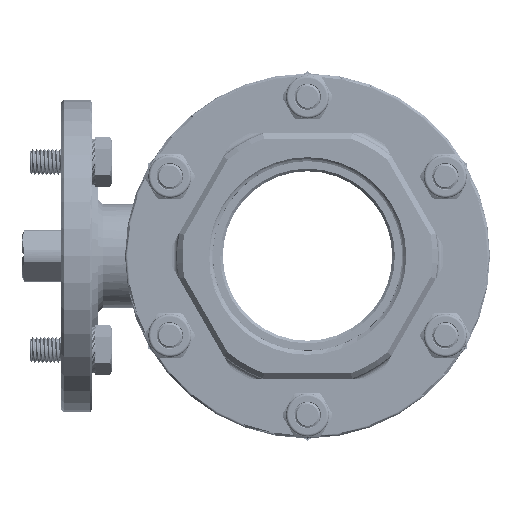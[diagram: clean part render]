
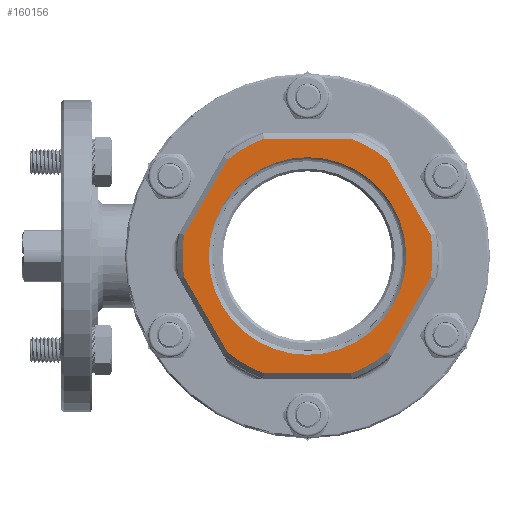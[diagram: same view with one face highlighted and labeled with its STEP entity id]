
A CAD part, left-side view. The second image highlights one B-rep face of the part: STEP entity #160156.
In plain terms, the highlighted planar face has unit normal (-1, 0, 0).
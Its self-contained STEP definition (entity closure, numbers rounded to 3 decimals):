
#17674=CARTESIAN_POINT('',(-76.1,0.,0.));
#17675=DIRECTION('',(1.,0.,0.));
#17676=DIRECTION('',(0.,0.986,-0.167));
#17677=AXIS2_PLACEMENT_3D('',#17674,#17675,#17676);
#17682=DIRECTION('',(0.,0.5,-0.866));
#17683=VECTOR('',#17682,33.406);
#17684=CARTESIAN_POINT('',(-76.1,30.62,
36.965));
#17685=LINE('',#17684,#17683);
#17689=CARTESIAN_POINT('',(-76.1,0.,0.));
#17690=DIRECTION('',(1.,0.,0.));
#17691=DIRECTION('',(0.,0.638,0.77));
#17692=AXIS2_PLACEMENT_3D('',#17689,#17690,#17691);
#17697=DIRECTION('',(0.,1.,0.));
#17698=VECTOR('',#17697,33.406);
#17699=CARTESIAN_POINT('',(-76.1,-16.703,
45.));
#17700=LINE('',#17699,#17698);
#17704=CARTESIAN_POINT('',(-76.1,0.,0.));
#17705=DIRECTION('',(1.,0.,0.));
#17706=DIRECTION('',(0.,-0.348,0.938));
#17707=AXIS2_PLACEMENT_3D('',#17704,#17705,#17706);
#17712=DIRECTION('',(0.,0.5,0.866));
#17713=VECTOR('',#17712,33.407);
#17714=CARTESIAN_POINT('',(-76.1,-47.323,
8.035));
#17715=LINE('',#17714,#17713);
#17719=CARTESIAN_POINT('',(-76.1,0.,0.));
#17720=DIRECTION('',(1.,0.,0.));
#17721=DIRECTION('',(0.,-0.986,0.167));
#17722=AXIS2_PLACEMENT_3D('',#17719,#17720,#17721);
#17727=DIRECTION('',(0.,-0.5,0.866));
#17728=VECTOR('',#17727,33.406);
#17729=CARTESIAN_POINT('',(-76.1,-30.62,
-36.965));
#17730=LINE('',#17729,#17728);
#17734=CARTESIAN_POINT('',(-76.1,0.,0.));
#17735=DIRECTION('',(1.,0.,0.));
#17736=DIRECTION('',(0.,-0.638,-0.77));
#17737=AXIS2_PLACEMENT_3D('',#17734,#17735,#17736);
#17742=DIRECTION('',(0.,-1.,0.));
#17743=VECTOR('',#17742,33.406);
#17744=CARTESIAN_POINT('',(-76.1,16.703,
-45.));
#17745=LINE('',#17744,#17743);
#17749=CARTESIAN_POINT('',(-76.1,0.,0.));
#17750=DIRECTION('',(1.,0.,0.));
#17751=DIRECTION('',(0.,0.348,-0.938));
#17752=AXIS2_PLACEMENT_3D('',#17749,#17750,#17751);
#17757=DIRECTION('',(0.,-0.5,-0.866));
#17758=VECTOR('',#17757,33.406);
#17759=CARTESIAN_POINT('',(-76.1,47.323,
-8.035));
#17760=LINE('',#17759,#17758);
#17764=CARTESIAN_POINT('',(-76.1,0.,0.));
#17765=DIRECTION('',(1.,0.,0.));
#17766=DIRECTION('',(0.,-1.,0.));
#17767=AXIS2_PLACEMENT_3D('',#17764,#17765,#17766);
#17772=CARTESIAN_POINT('',(-76.1,0.,0.));
#17773=DIRECTION('',(1.,0.,0.));
#17774=DIRECTION('',(0.,1.,0.));
#17775=AXIS2_PLACEMENT_3D('',#17772,#17773,#17774);
#144514=CARTESIAN_POINT('',(-76.1,47.323,-8.035));
#144515=CARTESIAN_POINT('',(-76.1,47.323,8.035));
#144516=VERTEX_POINT('',#144514);
#144517=VERTEX_POINT('',#144515);
#144518=CARTESIAN_POINT('',(-76.1,30.62,
-36.965));
#144519=VERTEX_POINT('',#144518);
#144522=CARTESIAN_POINT('',(-76.1,16.703,-45.));
#144523=VERTEX_POINT('',#144522);
#144526=CARTESIAN_POINT('',(-76.1,-16.703,
-45.));
#144527=VERTEX_POINT('',#144526);
#144530=CARTESIAN_POINT('',(-76.1,-30.62,-36.965));
#144531=VERTEX_POINT('',#144530);
#144534=CARTESIAN_POINT('',(-76.1,-47.323,
-8.035));
#144535=VERTEX_POINT('',#144534);
#144538=CARTESIAN_POINT('',(-76.1,-47.323,8.035));
#144539=VERTEX_POINT('',#144538);
#144542=CARTESIAN_POINT('',(-76.1,-30.619,
36.965));
#144543=VERTEX_POINT('',#144542);
#144546=CARTESIAN_POINT('',(-76.1,-16.703,45.));
#144547=VERTEX_POINT('',#144546);
#144550=CARTESIAN_POINT('',(-76.1,16.703,
45.));
#144551=VERTEX_POINT('',#144550);
#144554=CARTESIAN_POINT('',(-76.1,30.62,36.965));
#144555=VERTEX_POINT('',#144554);
#144610=CARTESIAN_POINT('',(-76.1,-37.9,0.));
#144611=CARTESIAN_POINT('',(-76.1,37.9,0.));
#144612=VERTEX_POINT('',#144610);
#144613=VERTEX_POINT('',#144611);
#160121=CARTESIAN_POINT('',(-76.1,0.,0.));
#160122=DIRECTION('',(-1.,0.,0.));
#160123=DIRECTION('',(0.,-1.,0.));
#160124=AXIS2_PLACEMENT_3D('',#160121,#160122,#160123);
#160125=PLANE('',#160124);
#160127=ORIENTED_EDGE('',*,*,#160126,.T.);
#160129=ORIENTED_EDGE('',*,*,#160128,.F.);
#160131=ORIENTED_EDGE('',*,*,#160130,.T.);
#160133=ORIENTED_EDGE('',*,*,#160132,.F.);
#160135=ORIENTED_EDGE('',*,*,#160134,.T.);
#160137=ORIENTED_EDGE('',*,*,#160136,.F.);
#160139=ORIENTED_EDGE('',*,*,#160138,.T.);
#160141=ORIENTED_EDGE('',*,*,#160140,.F.);
#160143=ORIENTED_EDGE('',*,*,#160142,.T.);
#160145=ORIENTED_EDGE('',*,*,#160144,.F.);
#160147=ORIENTED_EDGE('',*,*,#160146,.T.);
#160149=ORIENTED_EDGE('',*,*,#160148,.F.);
#160150=EDGE_LOOP('',(#160127,#160129,#160131,#160133,#160135,#160137,#160139,
#160141,#160143,#160145,#160147,#160149));
#160151=FACE_OUTER_BOUND('',#160150,.F.);
#160152=ORIENTED_EDGE('',*,*,#158083,.F.);
#160153=ORIENTED_EDGE('',*,*,#160115,.F.);
#160154=EDGE_LOOP('',(#160152,#160153));
#160155=FACE_BOUND('',#160154,.F.);
#160156=ADVANCED_FACE('',(#160151,#160155),#160125,.T.);
#17678=CIRCLE('',#17677,48.);
#17693=CIRCLE('',#17692,48.);
#17708=CIRCLE('',#17707,48.);
#17723=CIRCLE('',#17722,48.);
#17738=CIRCLE('',#17737,48.);
#17753=CIRCLE('',#17752,48.);
#17768=CIRCLE('',#17767,37.9);
#17776=CIRCLE('',#17775,37.9);
#158083=EDGE_CURVE('',#144612,#144613,#17768,.T.);
#160115=EDGE_CURVE('',#144613,#144612,#17776,.T.);
#160126=EDGE_CURVE('',#144516,#144517,#17678,.T.);
#160128=EDGE_CURVE('',#144555,#144517,#17685,.T.);
#160130=EDGE_CURVE('',#144555,#144551,#17693,.T.);
#160132=EDGE_CURVE('',#144547,#144551,#17700,.T.);
#160134=EDGE_CURVE('',#144547,#144543,#17708,.T.);
#160136=EDGE_CURVE('',#144539,#144543,#17715,.T.);
#160138=EDGE_CURVE('',#144539,#144535,#17723,.T.);
#160140=EDGE_CURVE('',#144531,#144535,#17730,.T.);
#160142=EDGE_CURVE('',#144531,#144527,#17738,.T.);
#160144=EDGE_CURVE('',#144523,#144527,#17745,.T.);
#160146=EDGE_CURVE('',#144523,#144519,#17753,.T.);
#160148=EDGE_CURVE('',#144516,#144519,#17760,.T.);
